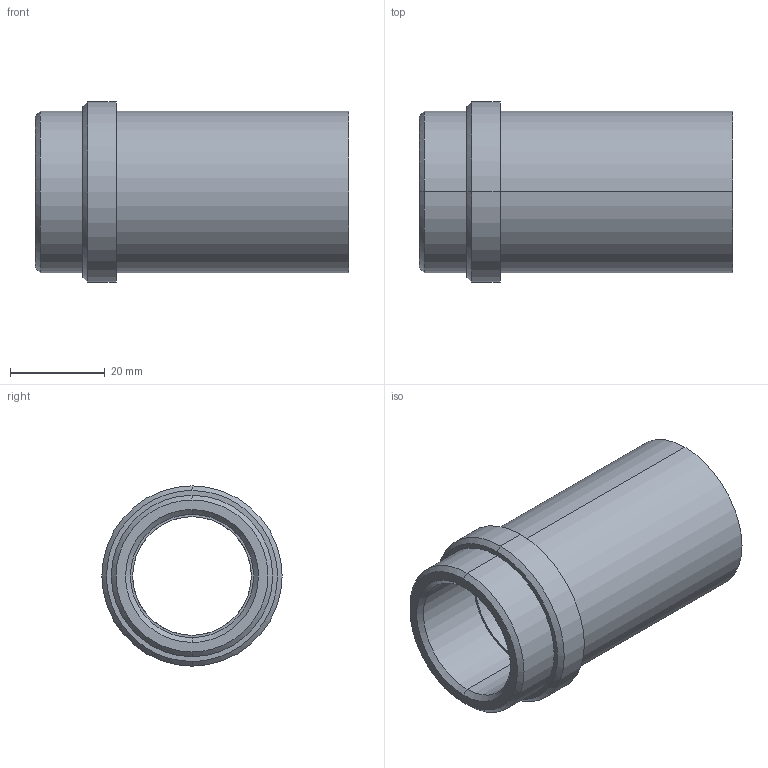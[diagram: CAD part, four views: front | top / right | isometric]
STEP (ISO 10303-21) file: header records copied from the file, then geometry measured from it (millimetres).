
FILE_DESCRIPTION(('CATIA V5 STEP Exchange'),'2;1');
FILE_NAME('C:\Users\Utente\Desktop\IO LAVORO\3D X SITO CF\X SITO\PLASTICA\358\358-25x66.stp','2021-04-09T13:21:14+00:00',('none'),('none'),'CATIA Version 5 Release 20 GA (IN-10)','CATIA V5 STEP AP203','none');
FILE_SCHEMA(('CONFIG_CONTROL_DESIGN'));
Length unit declared in the file: millimetre
Products named in the file (1): 358-25X66
Bounding box: 66 x 38 x 38 mm (x, y, z)
Volume: 28244.8 mm3; surface area: 13410.8 mm2
Topology: 1 solids, 1 shells, 23 faces, 74 edges, 56 vertices
Faces by surface type: cylinder 10, cone 6, plane 5, torus 2
Entity records: 1066 total; most frequent: CARTESIAN_POINT 378, ORIENTED_EDGE 148, DIRECTION 104, EDGE_CURVE 74, AXIS2_PLACEMENT_3D 66, VERTEX_POINT 56, CIRCLE 42, EDGE_LOOP 28
